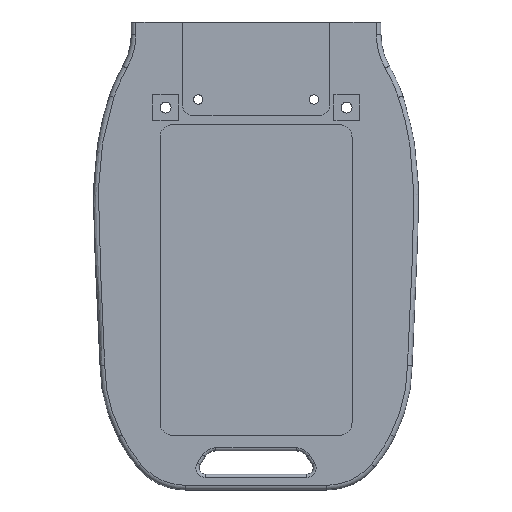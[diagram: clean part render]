
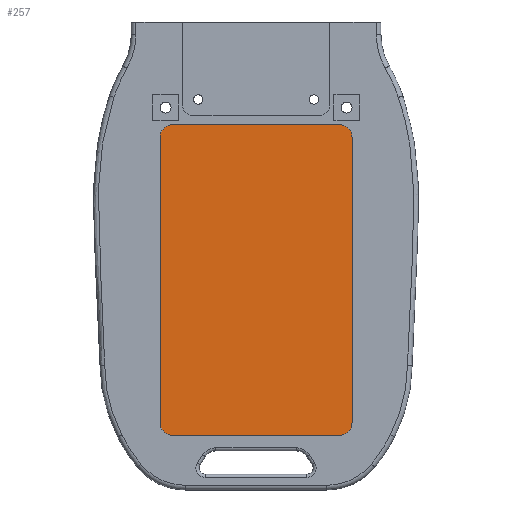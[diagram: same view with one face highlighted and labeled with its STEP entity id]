
A CAD part, top view. The second image highlights one B-rep face of the part: STEP entity #257.
In plain terms, the highlighted planar face has unit normal (0, 0, 1).
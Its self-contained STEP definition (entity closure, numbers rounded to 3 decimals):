
#184=FACE_OUTER_BOUND('',#423,.T.);
#257=ADVANCED_FACE('',(#184),#321,.F.);
#321=PLANE('',#1562);
#423=EDGE_LOOP('',(#787,#788,#789,#790,#791,#792,#793,#794));
#521=CIRCLE('',#1558,4.);
#522=CIRCLE('',#1559,4.);
#523=CIRCLE('',#1560,4.);
#524=CIRCLE('',#1561,4.);
#787=ORIENTED_EDGE('',*,*,#1223,.F.);
#788=ORIENTED_EDGE('',*,*,#1225,.T.);
#789=ORIENTED_EDGE('',*,*,#1219,.F.);
#790=ORIENTED_EDGE('',*,*,#1226,.T.);
#791=ORIENTED_EDGE('',*,*,#1216,.F.);
#792=ORIENTED_EDGE('',*,*,#1227,.T.);
#793=ORIENTED_EDGE('',*,*,#1214,.F.);
#794=ORIENTED_EDGE('',*,*,#1228,.T.);
#1053=VERTEX_POINT('',#2392);
#1054=VERTEX_POINT('',#2394);
#1055=VERTEX_POINT('',#2398);
#1056=VERTEX_POINT('',#2399);
#1057=VERTEX_POINT('',#2404);
#1058=VERTEX_POINT('',#2405);
#1059=VERTEX_POINT('',#2410);
#1060=VERTEX_POINT('',#2412);
#1214=EDGE_CURVE('',#1053,#1054,#1347,.T.);
#1216=EDGE_CURVE('',#1055,#1056,#1349,.T.);
#1219=EDGE_CURVE('',#1057,#1058,#1352,.T.);
#1223=EDGE_CURVE('',#1059,#1060,#1356,.T.);
#1225=EDGE_CURVE('',#1059,#1058,#521,.T.);
#1226=EDGE_CURVE('',#1057,#1056,#522,.T.);
#1227=EDGE_CURVE('',#1055,#1054,#523,.T.);
#1228=EDGE_CURVE('',#1053,#1060,#524,.T.);
#1347=LINE('',#2393,#1452);
#1349=LINE('',#2397,#1454);
#1352=LINE('',#2403,#1457);
#1356=LINE('',#2411,#1461);
#1452=VECTOR('',#1881,1.);
#1454=VECTOR('',#1885,1.);
#1457=VECTOR('',#1890,1.);
#1461=VECTOR('',#1896,1.);
#1558=AXIS2_PLACEMENT_3D('',#2415,#1900,#1901);
#1559=AXIS2_PLACEMENT_3D('',#2416,#1902,#1903);
#1560=AXIS2_PLACEMENT_3D('',#2417,#1904,#1905);
#1561=AXIS2_PLACEMENT_3D('',#2418,#1906,#1907);
#1562=AXIS2_PLACEMENT_3D('',#2419,#1908,#1909);
#1881=DIRECTION('',(-1.,0.,0.));
#1885=DIRECTION('',(0.,1.,0.));
#1890=DIRECTION('',(1.,0.,0.));
#1896=DIRECTION('',(0.,-1.,0.));
#1900=DIRECTION('',(0.,0.,1.));
#1901=DIRECTION('',(-1.,0.,0.));
#1902=DIRECTION('',(0.,0.,1.));
#1903=DIRECTION('',(-1.,0.,0.));
#1904=DIRECTION('',(0.,0.,1.));
#1905=DIRECTION('',(-1.,0.,0.));
#1906=DIRECTION('',(0.,0.,1.));
#1907=DIRECTION('',(-1.,0.,0.));
#1908=DIRECTION('',(0.,0.,-1.));
#1909=DIRECTION('',(-1.,0.,0.));
#2392=CARTESIAN_POINT('',(316.25,2.5,93.4));
#2393=CARTESIAN_POINT('',(320.25,2.5,93.4));
#2394=CARTESIAN_POINT('',(262.75,2.5,93.4));
#2397=CARTESIAN_POINT('',(258.75,2.5,93.4));
#2398=CARTESIAN_POINT('',(258.75,6.5,93.4));
#2399=CARTESIAN_POINT('',(258.75,98.,93.4));
#2403=CARTESIAN_POINT('',(258.75,102.,93.4));
#2404=CARTESIAN_POINT('',(262.75,102.,93.4));
#2405=CARTESIAN_POINT('',(316.25,102.,93.4));
#2410=CARTESIAN_POINT('',(320.25,98.,93.4));
#2411=CARTESIAN_POINT('',(320.25,102.,93.4));
#2412=CARTESIAN_POINT('',(320.25,6.5,93.4));
#2415=CARTESIAN_POINT('',(316.25,98.,93.4));
#2416=CARTESIAN_POINT('',(262.75,98.,93.4));
#2417=CARTESIAN_POINT('',(262.75,6.5,93.4));
#2418=CARTESIAN_POINT('',(316.25,6.5,93.4));
#2419=CARTESIAN_POINT('',(258.75,2.5,93.4));
